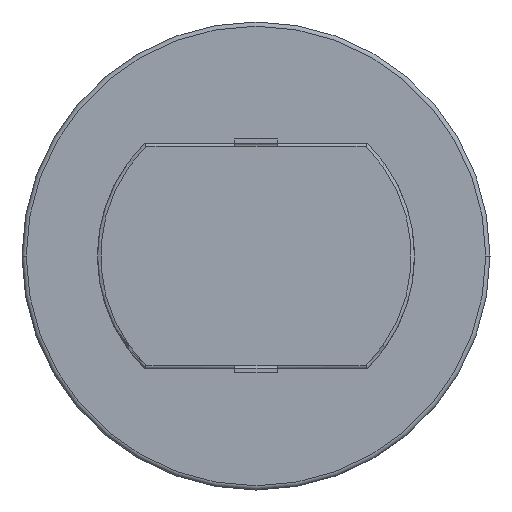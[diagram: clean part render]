
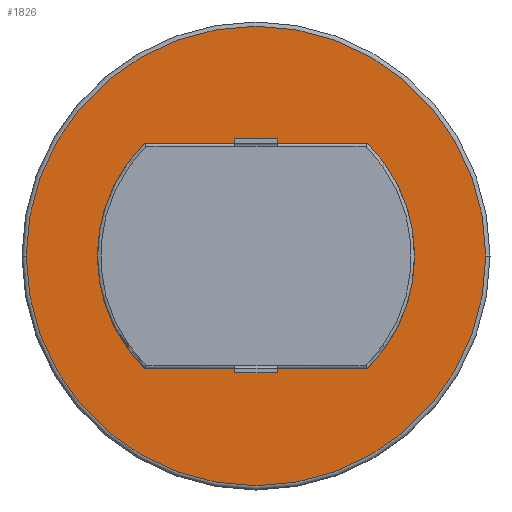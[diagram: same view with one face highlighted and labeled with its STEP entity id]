
A CAD part, left-side view. The second image highlights one B-rep face of the part: STEP entity #1826.
In plain terms, the highlighted planar face has unit normal (-1, 0, 0).
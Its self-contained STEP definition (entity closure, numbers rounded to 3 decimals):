
#443=DIRECTION('',(0.,0.,-1.));
#444=VECTOR('',#443,0.2);
#445=CARTESIAN_POINT('',(-19.65,1.,-5.3));
#446=LINE('',#445,#444);
#447=DIRECTION('',(0.,-1.,0.));
#448=VECTOR('',#447,2.);
#449=CARTESIAN_POINT('',(-19.65,1.,-5.5));
#450=LINE('',#449,#448);
#451=DIRECTION('',(0.,0.,1.));
#452=VECTOR('',#451,0.2);
#453=CARTESIAN_POINT('',(-19.65,-1.,-5.5));
#454=LINE('',#453,#452);
#455=DIRECTION('',(0.,1.,0.));
#456=VECTOR('',#455,4.236);
#457=CARTESIAN_POINT('',(-19.65,-5.236,-5.3));
#458=LINE('',#457,#456);
#459=DIRECTION('',(0.,-1.,0.));
#460=VECTOR('',#459,4.236);
#461=CARTESIAN_POINT('',(-19.65,-1.,5.3));
#462=LINE('',#461,#460);
#463=DIRECTION('',(0.,0.,1.));
#464=VECTOR('',#463,0.2);
#465=CARTESIAN_POINT('',(-19.65,-1.,5.3));
#466=LINE('',#465,#464);
#467=DIRECTION('',(0.,1.,0.));
#468=VECTOR('',#467,2.);
#469=CARTESIAN_POINT('',(-19.65,-1.,5.5));
#470=LINE('',#469,#468);
#471=DIRECTION('',(0.,0.,-1.));
#472=VECTOR('',#471,0.2);
#473=CARTESIAN_POINT('',(-19.65,1.,5.5));
#474=LINE('',#473,#472);
#475=DIRECTION('',(0.,-1.,0.));
#476=VECTOR('',#475,4.236);
#477=CARTESIAN_POINT('',(-19.65,5.236,5.3));
#478=LINE('',#477,#476);
#479=DIRECTION('',(0.,1.,0.));
#480=VECTOR('',#479,4.236);
#481=CARTESIAN_POINT('',(-19.65,1.,-5.3));
#482=LINE('',#481,#480);
#483=CARTESIAN_POINT('',(-19.65,0.,0.));
#484=DIRECTION('',(-1.,0.,0.));
#485=DIRECTION('',(0.,1.,0.));
#486=AXIS2_PLACEMENT_3D('',#483,#484,#485);
#488=CARTESIAN_POINT('',(-19.65,0.,0.));
#489=DIRECTION('',(-1.,0.,0.));
#490=DIRECTION('',(0.,-1.,0.));
#491=AXIS2_PLACEMENT_3D('',#488,#489,#490);
#758=CARTESIAN_POINT('',(-19.65,0.,0.));
#759=DIRECTION('',(1.,0.,0.));
#760=DIRECTION('',(0.,-0.703,0.711));
#761=AXIS2_PLACEMENT_3D('',#758,#759,#760);
#776=CARTESIAN_POINT('',(-19.65,0.,0.));
#777=DIRECTION('',(1.,0.,0.));
#778=DIRECTION('',(0.,0.703,-0.711));
#779=AXIS2_PLACEMENT_3D('',#776,#777,#778);
#892=CARTESIAN_POINT('',(-19.65,5.236,-5.3));
#893=CARTESIAN_POINT('',(-19.65,5.236,5.3));
#894=VERTEX_POINT('',#892);
#895=VERTEX_POINT('',#893);
#896=CARTESIAN_POINT('',(-19.65,-5.236,5.3));
#897=CARTESIAN_POINT('',(-19.65,-5.236,-5.3));
#898=VERTEX_POINT('',#896);
#899=VERTEX_POINT('',#897);
#916=CARTESIAN_POINT('',(-19.65,1.,-5.3));
#917=CARTESIAN_POINT('',(-19.65,1.,-5.5));
#918=VERTEX_POINT('',#916);
#919=VERTEX_POINT('',#917);
#920=CARTESIAN_POINT('',(-19.65,-1.,-5.5));
#921=VERTEX_POINT('',#920);
#922=CARTESIAN_POINT('',(-19.65,-1.,-5.3));
#923=VERTEX_POINT('',#922);
#924=CARTESIAN_POINT('',(-19.65,-1.,5.3));
#925=CARTESIAN_POINT('',(-19.65,-1.,5.5));
#926=VERTEX_POINT('',#924);
#927=VERTEX_POINT('',#925);
#928=CARTESIAN_POINT('',(-19.65,1.,5.5));
#929=VERTEX_POINT('',#928);
#930=CARTESIAN_POINT('',(-19.65,1.,5.3));
#931=VERTEX_POINT('',#930);
#1036=CARTESIAN_POINT('',(-19.65,10.8,0.));
#1037=CARTESIAN_POINT('',(-19.65,-10.8,0.));
#1038=VERTEX_POINT('',#1036);
#1039=VERTEX_POINT('',#1037);
#1790=CARTESIAN_POINT('',(-19.65,0.,0.));
#1791=DIRECTION('',(1.,0.,0.));
#1792=DIRECTION('',(0.,-1.,0.));
#1793=AXIS2_PLACEMENT_3D('',#1790,#1791,#1792);
#1794=PLANE('',#1793);
#1795=ORIENTED_EDGE('',*,*,#1780,.F.);
#1797=ORIENTED_EDGE('',*,*,#1796,.F.);
#1798=EDGE_LOOP('',(#1795,#1797));
#1799=FACE_OUTER_BOUND('',#1798,.F.);
#1801=ORIENTED_EDGE('',*,*,#1800,.T.);
#1803=ORIENTED_EDGE('',*,*,#1802,.T.);
#1805=ORIENTED_EDGE('',*,*,#1804,.T.);
#1807=ORIENTED_EDGE('',*,*,#1806,.F.);
#1809=ORIENTED_EDGE('',*,*,#1808,.F.);
#1811=ORIENTED_EDGE('',*,*,#1810,.F.);
#1813=ORIENTED_EDGE('',*,*,#1812,.T.);
#1815=ORIENTED_EDGE('',*,*,#1814,.T.);
#1817=ORIENTED_EDGE('',*,*,#1816,.T.);
#1819=ORIENTED_EDGE('',*,*,#1818,.F.);
#1821=ORIENTED_EDGE('',*,*,#1820,.F.);
#1823=ORIENTED_EDGE('',*,*,#1822,.F.);
#1824=EDGE_LOOP('',(#1801,#1803,#1805,#1807,#1809,#1811,#1813,#1815,#1817,#1819,
#1821,#1823));
#1825=FACE_BOUND('',#1824,.F.);
#1826=ADVANCED_FACE('',(#1799,#1825),#1794,.F.);
#487=CIRCLE('',#486,10.8);
#492=CIRCLE('',#491,10.8);
#762=CIRCLE('',#761,7.45);
#780=CIRCLE('',#779,7.45);
#1780=EDGE_CURVE('',#1038,#1039,#487,.T.);
#1796=EDGE_CURVE('',#1039,#1038,#492,.T.);
#1800=EDGE_CURVE('',#918,#919,#446,.T.);
#1802=EDGE_CURVE('',#919,#921,#450,.T.);
#1804=EDGE_CURVE('',#921,#923,#454,.T.);
#1806=EDGE_CURVE('',#899,#923,#458,.T.);
#1808=EDGE_CURVE('',#898,#899,#762,.T.);
#1810=EDGE_CURVE('',#926,#898,#462,.T.);
#1812=EDGE_CURVE('',#926,#927,#466,.T.);
#1814=EDGE_CURVE('',#927,#929,#470,.T.);
#1816=EDGE_CURVE('',#929,#931,#474,.T.);
#1818=EDGE_CURVE('',#895,#931,#478,.T.);
#1820=EDGE_CURVE('',#894,#895,#780,.T.);
#1822=EDGE_CURVE('',#918,#894,#482,.T.);
